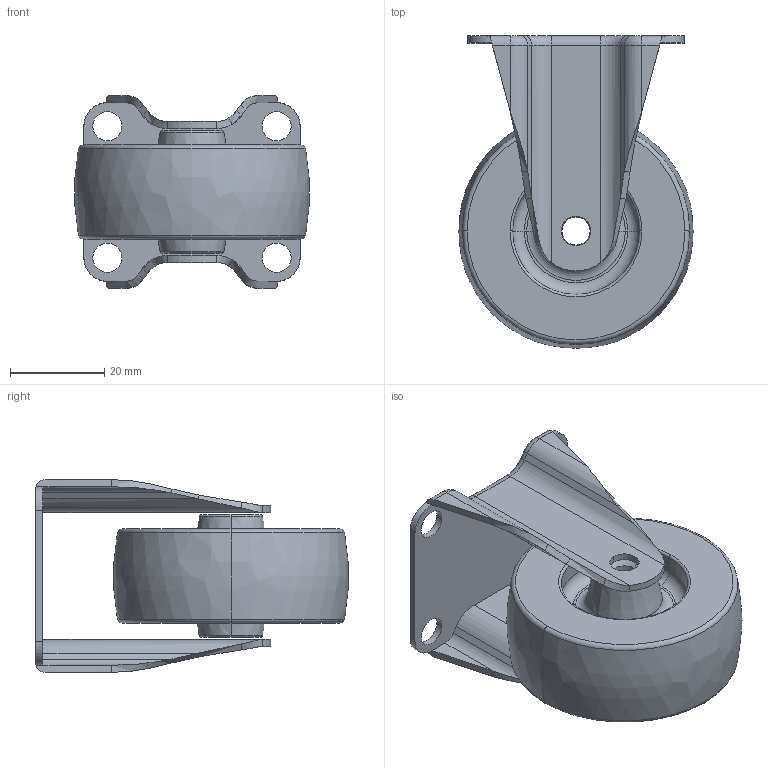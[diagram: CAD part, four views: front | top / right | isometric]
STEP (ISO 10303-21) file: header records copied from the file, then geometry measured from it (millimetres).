
FILE_DESCRIPTION((''),'2;1');
FILE_NAME('C22102-C222-62_ASM','2025-05-26T',('Lenovo'),(''),'PRO/ENGINEER BY PARAMETRIC TECHNOLOGY CORPORATION, 2010280','PRO/ENGINEER BY PARAMETRIC TECHNOLOGY CORPORATION, 2010280','');
FILE_SCHEMA(('CONFIG_CONTROL_DESIGN'));
Length unit declared in the file: millimetre
Products named in the file (3): C2212-301; C222-962; C22102-C222-62_ASM
Assembly tree (2 placements, depth 2):
  C22102-C222-62_ASM
    C2212-301
    C222-962
Bounding box: 49.81 x 66.4 x 41 mm (x, y, z)
Volume: 39626.3 mm3; surface area: 17196.7 mm2
Topology: 2 solids, 2 shells, 148 faces, 352 edges, 210 vertices
Faces by surface type: cylinder 50, plane 44, torus 28, bspline 14, cone 12
Entity records: 4792 total; most frequent: CARTESIAN_POINT 1271, DIRECTION 750, ORIENTED_EDGE 704, EDGE_CURVE 352, AXIS2_PLACEMENT_3D 299, VERTEX_POINT 210, EDGE_LOOP 164, CIRCLE 160
